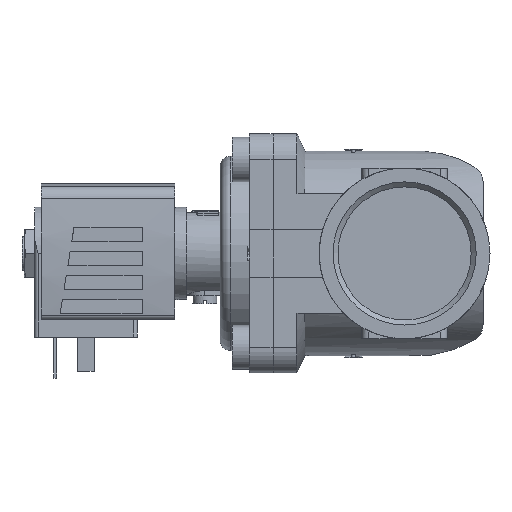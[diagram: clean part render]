
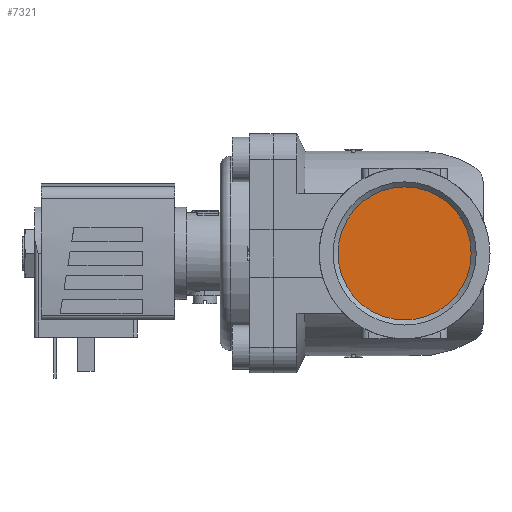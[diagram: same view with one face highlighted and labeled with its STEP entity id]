
A CAD part, left-side view. The second image highlights one B-rep face of the part: STEP entity #7321.
In plain terms, the highlighted planar face has unit normal (-1, 0, 0).
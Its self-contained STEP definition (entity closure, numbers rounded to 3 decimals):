
#332=PLANE('',#7883);
#2704=ORIENTED_EDGE('',*,*,#3874,.F.);
#3874=EDGE_CURVE('',#4559,#4559,#4891,.T.);
#4559=VERTEX_POINT('',#11325);
#4891=CIRCLE('',#7882,19.476);
#5212=EDGE_LOOP('',(#2704));
#5618=FACE_BOUND('',#5212,.T.);
#7321=ADVANCED_FACE('',(#5618),#332,.T.);
#7882=AXIS2_PLACEMENT_3D('',#11324,#9272,#9273);
#7883=AXIS2_PLACEMENT_3D('',#11326,#9274,#9275);
#9272=DIRECTION('',(1.,0.,0.));
#9273=DIRECTION('',(0.,0.,-1.));
#9274=DIRECTION('',(-1.,0.,0.));
#9275=DIRECTION('',(0.,0.,1.));
#11324=CARTESIAN_POINT('',(-26.5,0.,0.));
#11325=CARTESIAN_POINT('',(-26.5,0.,-19.476));
#11326=CARTESIAN_POINT('',(-26.5,19.476,0.));
